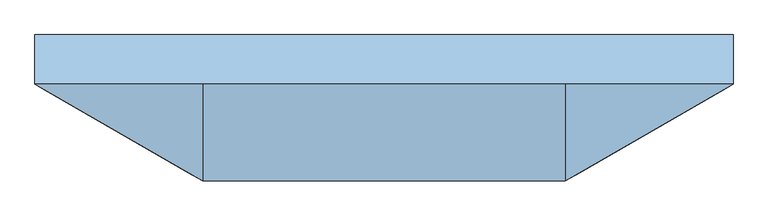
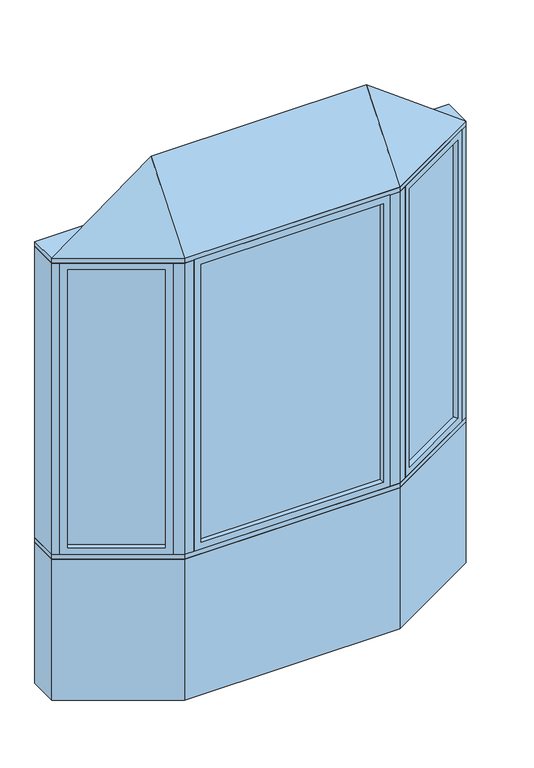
"""IFC4 building model written with IfcOpenShell, lengths in millimetres: window geometry, Pollard_Windows_Tudor Casement Bows and Bays : AML-BAY 30 AFR0616-10-500."""

from ifc_helpers import new_model, si_unit, frame, origin, origin_with_axes, place, context, project, spatial, polyline, outline, extrude, faceted_brep, source, transform, mapped, element, save


def window_3c337860(model_context):
    return source(origin(), model_context, "Body", "SolidModel", [
        extrude(outline(polyline([(1013.112102, -82.0482469), (610.2320119, -314.6511754), (607.6920119, -310.2517664), (1010.572102, -77.6488379), (1013.112102, -82.0482469)])), frame((0.0, 0.0, 823.1628), z_axis=(0.0, 0.0, 1.0), x_axis=(1.0, 0.0, 0.0)), (0.0, 0.0, 1.0), 1553.6704),
        faceted_brep([(1002.1135794, -88.3982469, 835.8628), (1014.8135794, -110.3952922, 835.8628), (1014.8135794, -110.3952922, 2364.1332), (1002.1135794, -88.3982469, 2364.1332), (1010.572102, -77.6488379, 823.1628), (1013.112102, -82.0482469, 823.1628), (1013.112102, -82.0482469, 2376.8332), (1010.572102, -77.6488379, 2376.8332), (986.8735794, -62.0017926, 835.8628), (999.5735794, -83.9988379, 835.8628), (999.5735794, -83.9988379, 2364.1332), (986.8735794, -62.0017926, 2364.1332), (1045.8734073, -92.4628922, 799.998), (1017.9334073, -44.0693926, 799.998), (1017.9334073, -44.0693926, 2399.998), (1045.8734073, -92.4628922, 2399.998), (633.9305346, -330.2982207, 2364.1332), (621.2305346, -308.3011754, 2364.1332), (610.2320119, -314.6511754, 2376.8332), (607.6920119, -310.2517664, 2376.8332), (618.6905346, -303.9017664, 2364.1332), (605.9905346, -281.9047211, 2364.1332), (574.9307067, -299.8371211, 2399.998), (602.8707067, -348.2306207, 2399.998), (633.9305346, -330.2982207, 835.8628), (621.2305346, -308.3011754, 835.8628), (610.2320119, -314.6511754, 823.1628), (607.6920119, -310.2517664, 823.1628), (618.6905346, -303.9017664, 835.8628), (605.9905346, -281.9047211, 835.8628), (574.9307067, -299.8371211, 799.998), (602.8707067, -348.2306207, 799.998)], [[[0, 1, 2, 3]], [[4, 5, 6, 7]], [[8, 9, 10, 11]], [[12, 13, 14, 15]], [[3, 2, 16, 17]], [[7, 6, 18, 19]], [[11, 10, 20, 21]], [[15, 14, 22, 23]], [[17, 16, 24, 25]], [[19, 18, 26, 27]], [[21, 20, 28, 29]], [[23, 22, 30, 31]], [[25, 24, 1, 0]], [[5, 26, 18, 6], [3, 17, 25, 0]], [[27, 26, 5, 4]], [[7, 19, 27, 4], [9, 28, 20, 10]], [[29, 28, 9, 8]], [[13, 30, 22, 14], [11, 21, 29, 8]], [[31, 30, 13, 12]], [[15, 23, 31, 12], [1, 24, 16, 2]]]),
        extrude(outline(polyline([(-610.2320119, -314.6511754), (-1013.112102, -82.0482469), (-1010.572102, -77.6488379), (-607.6920119, -310.2517664), (-610.2320119, -314.6511754)])), frame((0.0, 0.0, 823.1628), z_axis=(0.0, 0.0, 1.0), x_axis=(1.0, 0.0, 0.0)), (0.0, 0.0, 1.0), 1553.6704),
        faceted_brep([(-618.6905346, -303.9017664, 2364.1332), (-605.9905346, -281.9047211, 2364.1332), (-605.9905346, -281.9047211, 835.8628), (-618.6905346, -303.9017664, 835.8628), (-610.2320119, -314.6511754, 2376.8332), (-607.6920119, -310.2517664, 2376.8332), (-607.6920119, -310.2517664, 823.1628), (-610.2320119, -314.6511754, 823.1628), (-633.9305346, -330.2982207, 2364.1332), (-621.2305346, -308.3011754, 2364.1332), (-621.2305346, -308.3011754, 835.8628), (-633.9305346, -330.2982207, 835.8628), (-574.9307067, -299.8371211, 2399.998), (-602.8707067, -348.2306207, 2399.998), (-602.8707067, -348.2306207, 799.998), (-574.9307067, -299.8371211, 799.998), (-986.8735794, -62.0017926, 835.8628), (-999.5735794, -83.9988379, 835.8628), (-1010.572102, -77.6488379, 823.1628), (-1013.112102, -82.0482469, 823.1628), (-1002.1135794, -88.3982469, 835.8628), (-1014.8135794, -110.3952922, 835.8628), (-1045.8734073, -92.4628922, 799.998), (-1017.9334073, -44.0693926, 799.998), (-986.8735794, -62.0017926, 2364.1332), (-999.5735794, -83.9988379, 2364.1332), (-1010.572102, -77.6488379, 2376.8332), (-1013.112102, -82.0482469, 2376.8332), (-1002.1135794, -88.3982469, 2364.1332), (-1014.8135794, -110.3952922, 2364.1332), (-1045.8734073, -92.4628922, 2399.998), (-1017.9334073, -44.0693926, 2399.998)], [[[0, 1, 2, 3]], [[4, 5, 6, 7]], [[8, 9, 10, 11]], [[12, 13, 14, 15]], [[3, 2, 16, 17]], [[7, 6, 18, 19]], [[11, 10, 20, 21]], [[15, 14, 22, 23]], [[17, 16, 24, 25]], [[19, 18, 26, 27]], [[21, 20, 28, 29]], [[23, 22, 30, 31]], [[15, 23, 31, 12], [1, 24, 16, 2]], [[25, 24, 1, 0]], [[5, 26, 18, 6], [3, 17, 25, 0]], [[27, 26, 5, 4]], [[7, 19, 27, 4], [9, 28, 20, 10]], [[29, 28, 9, 8]], [[13, 30, 22, 14], [11, 21, 29, 8]], [[31, 30, 13, 12]]]),
        extrude(outline(polyline([(486.4046365, -347.8306207), (-486.4046365, -347.8306207), (-486.4046365, -342.7506207), (486.4046365, -342.7506207), (486.4046365, -347.8306207)])), frame((0.0, 0.0, 823.1628), z_axis=(0.0, 0.0, 1.0), x_axis=(1.0, 0.0, 0.0)), (0.0, 0.0, 1.0), 1553.6704),
        faceted_brep([(473.7046365, -347.8306207, 835.8628), (473.7046365, -373.2306207, 835.8628), (473.7046365, -373.2306207, 2364.1332), (473.7046365, -347.8306207, 2364.1332), (486.4046365, -342.7506207, 823.1628), (486.4046365, -347.8306207, 823.1628), (486.4046365, -347.8306207, 2376.8332), (486.4046365, -342.7506207, 2376.8332), (473.7046365, -317.3506207, 835.8628), (473.7046365, -342.7506207, 835.8628), (473.7046365, -342.7506207, 2364.1332), (473.7046365, -317.3506207, 2364.1332), (509.5694365, -373.2306207, 799.998), (509.5694365, -317.3506207, 799.998), (509.5694365, -317.3506207, 2399.998), (509.5694365, -373.2306207, 2399.998), (-473.7046365, -373.2306207, 2364.1332), (-473.7046365, -347.8306207, 2364.1332), (-486.4046365, -347.8306207, 2376.8332), (-486.4046365, -342.7506207, 2376.8332), (-473.7046365, -342.7506207, 2364.1332), (-473.7046365, -317.3506207, 2364.1332), (-509.5694365, -317.3506207, 2399.998), (-509.5694365, -373.2306207, 2399.998), (-473.7046365, -373.2306207, 835.8628), (-473.7046365, -347.8306207, 835.8628), (-486.4046365, -347.8306207, 823.1628), (-486.4046365, -342.7506207, 823.1628), (-473.7046365, -342.7506207, 835.8628), (-473.7046365, -317.3506207, 835.8628), (-509.5694365, -317.3506207, 799.998), (-509.5694365, -373.2306207, 799.998)], [[[0, 1, 2, 3]], [[4, 5, 6, 7]], [[8, 9, 10, 11]], [[12, 13, 14, 15]], [[3, 2, 16, 17]], [[7, 6, 18, 19]], [[11, 10, 20, 21]], [[15, 14, 22, 23]], [[17, 16, 24, 25]], [[19, 18, 26, 27]], [[21, 20, 28, 29]], [[23, 22, 30, 31]], [[15, 23, 31, 12], [1, 24, 16, 2]], [[25, 24, 1, 0]], [[5, 26, 18, 6], [3, 17, 25, 0]], [[27, 26, 5, 4]], [[7, 19, 27, 4], [9, 28, 20, 10]], [[29, 28, 9, 8]], [[13, 30, 22, 14], [11, 21, 29, 8]], [[31, 30, 13, 12]]]),
        faceted_brep([(1076.5, -74.7806207, 2425.398), (559.5694365, -373.2306207, 2425.398), (-559.5694365, -373.2306207, 2425.398), (-1076.5, -74.7806207, 2425.398), (-559.5694365, -74.7806207, 2806.398), (559.5694365, -74.7806207, 2806.398)], [[[0, 1, 2, 3]], [[3, 2, 4]], [[2, 1, 5, 4]], [[1, 0, 5]], [[0, 3, 4, 5]]]),
        extrude(outline(polyline([(-1076.5, 77.6193793), (1076.5, 77.6193793), (1076.5, -74.7806207), (559.5694365, -373.2306207), (-559.5694365, -373.2306207), (-1076.5, -74.7806207), (-1076.5, 77.6193793)])), frame((0.0, 0.0, 2399.998), z_axis=(0.0, 0.0, 1.0), x_axis=(1.0, 0.0, 0.0)), (0.0, 0.0, 1.0), 25.4),
        extrude(outline(polyline([(-1076.5, -74.7806207), (-1076.5, 77.6193793), (-1035.6645431, 77.6193793), (-1035.6645431, -74.7806207), (-1045.8734073, -92.4628922), (-1076.5, -74.7806207)])), frame((0.0, 0.0, 799.998), z_axis=(0.0, 0.0, 1.0), x_axis=(1.0, 0.0, 0.0)), (0.0, 0.0, 1.0), 1600.0),
        extrude(outline(polyline([(1076.5, 77.6193793), (1076.5, -74.7806207), (1045.8734073, -92.4628922), (1035.6645431, -74.7806207), (1035.6645431, 77.6193793), (1076.5, 77.6193793)])), frame((0.0, 0.0, 799.998), z_axis=(0.0, 0.0, 1.0), x_axis=(1.0, 0.0, 0.0)), (0.0, 0.0, 1.0), 1600.0),
        extrude(outline(polyline([(559.5694365, -373.2306207), (509.5694365, -373.2306207), (509.5694365, -323.2306207), (546.1719769, -323.2306207), (577.8707067, -304.9293505), (602.8707067, -348.2306207), (559.5694365, -373.2306207)])), frame((0.0, 0.0, 799.998), z_axis=(0.0, 0.0, 1.0), x_axis=(1.0, 0.0, 0.0)), (0.0, 0.0, 1.0), 1600.0),
        extrude(outline(polyline([(-559.5694365, -373.2306207), (-602.8707067, -348.2306207), (-577.8707067, -304.9293505), (-546.1719769, -323.2306207), (-509.5694365, -323.2306207), (-509.5694365, -373.2306207), (-559.5694365, -373.2306207)])), frame((0.0, 0.0, 799.998), z_axis=(0.0, 0.0, 1.0), x_axis=(1.0, 0.0, 0.0)), (0.0, 0.0, 1.0), 1600.0),
        extrude(outline(polyline([(-559.5694365, -373.2306207), (-1076.5, -74.7806207), (-1076.5, 77.6193793), (-1035.6645431, 77.6193793), (-518.7339796, -220.8306207), (518.7339796, -220.8306207), (1035.6645431, 77.6193793), (1076.5, 77.6193793), (1076.5, -74.7806207), (559.5694365, -373.2306207), (-559.5694365, -373.2306207)])), frame((0.0, 0.0, 774.598), z_axis=(0.0, 0.0, 1.0), x_axis=(1.0, 0.0, 0.0)), (0.0, 0.0, 1.0), 25.4),
        extrude(outline(polyline([(-1076.5, -74.7806207), (-1076.5, 77.6193793), (-1035.6645431, 77.6193793), (-518.7339796, -220.8306207), (518.7339796, -220.8306207), (1035.6645431, 77.6193793), (1076.5, 77.6193793), (1076.5, -74.7806207), (559.5694365, -373.2306207), (-559.5694365, -373.2306207), (-1076.5, -74.7806207)])), origin_with_axes(), (0.0, 0.0, 1.0), 774.598),
    ])


if __name__ == "__main__":
    model = new_model("IFC4")
    model_context = context("Model", 3, world=origin())
    ifc_project = project(units=[si_unit("LENGTHUNIT", "METRE", prefix="MILLI")], contexts=[model_context])
    site = spatial("IfcSite", under=ifc_project)
    building = spatial("IfcBuilding", under=site)
    placement = place(None, origin())
    window_shape = window_3c337860(model_context)
    element("IfcWindow", 1, ObjectType="Pollard_Windows_Tudor Casement Bows and Bays : AML-BAY 30 AFR0616-10-500", at=placement, inside=building, context=model_context, shape_type="MappedRepresentation", body=[
        mapped(window_shape, transform((0.0, 0.0, 0.0), x_axis=(1.0, 0.0, 0.0), y_axis=(0.0, 1.0, 0.0), z_axis=(0.0, 0.0, 1.0))),
    ])
    save(model, "model.ifc")
